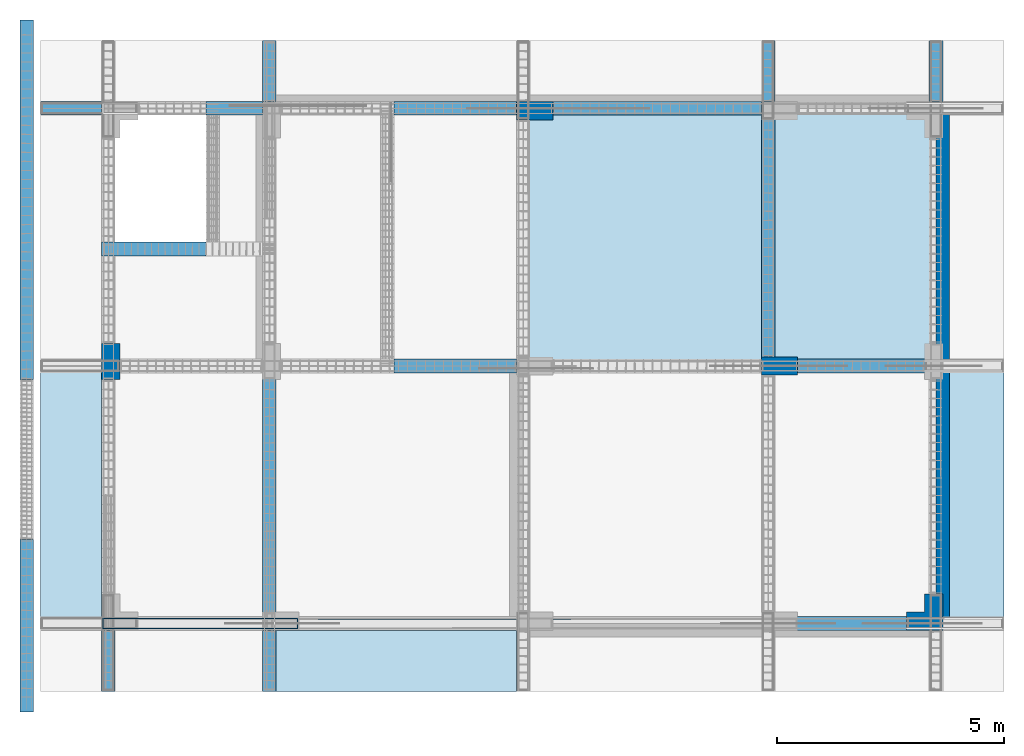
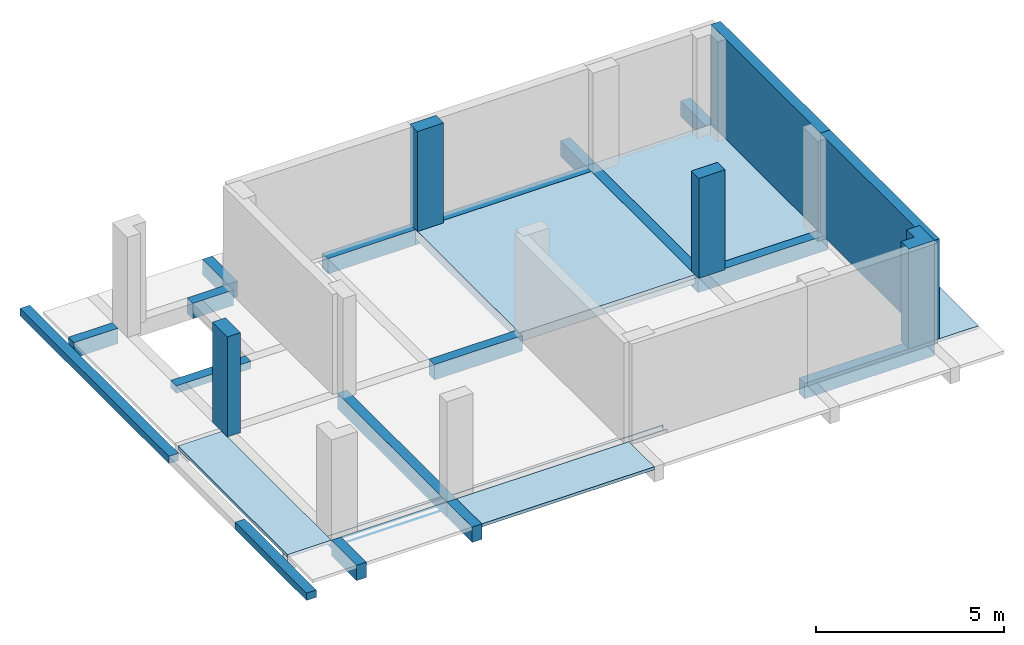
# One storey, part 1 of 3: 17 beams, 5 slabs, 4 columns, 2 reinforcing bars, 2 walls.
"""IFC4 building model written with IfcOpenShell, lengths in metres."""

from ifc_helpers import new_model, entity, si_unit, frame, frame_2d, origin_with_axes, origin_2d_with_axis, place, context, project, spatial, polyline, rectangle, outline, extrude, source, transform, mapped, material, material_profile, profile_set, profile_usage, type_object, element, save


model = new_model("IFC4")

# Units and contexts
model_context = context("Model", 3, precision=1e-05, world=origin_with_axes())
ifc_project = project(units=[si_unit("LENGTHUNIT", "METRE"), si_unit("AREAUNIT", "SQUARE_METRE"), si_unit("VOLUMEUNIT", "CUBIC_METRE"), si_unit("MASSUNIT", "GRAM", prefix="KILO"), si_unit("TIMEUNIT", "SECOND"), si_unit("PLANEANGLEUNIT", "RADIAN"), si_unit("SOLIDANGLEUNIT", "STERADIAN"), si_unit("THERMODYNAMICTEMPERATUREUNIT", "DEGREE_CELSIUS")], contexts=[model_context])

# Site, building, storey
placement_1 = place(None, origin_with_axes())
site = spatial("IfcSite", under=ifc_project, at=placement_1, Name="Italia", CompositionType="ELEMENT")
building = spatial("IfcBuilding", under=site, at=placement_1, Name="Palazzina", CompositionType="ELEMENT")
storey_placement = place(None, frame((0.0, 0.0, 3.75), z_axis=(0.0, 0.0, 1.0), x_axis=(1.0, 0.0, 0.0)))
storey = spatial("IfcBuildingStorey", under=building, at=storey_placement, Name="Storey 1", CompositionType="ELEMENT", Elevation=3.75)

# Columns
ifc_material_1 = material(Name="Calcestruzzo classe C28/35", Category="Calcestruzzo classe C28/35")
ifc_material_profile = material_profile(ifc_material_1, rectangle(XDim=0.4, YDim=0.8, at=origin_2d_with_axis()), Name="2 R 40x80 P")
ifc_profile_set = profile_set([ifc_material_profile])
ifc_profile_usage_1 = profile_usage(ifc_profile_set, cardinal=2)
column_type_1 = type_object("IfcColumnType", Name="2 R 40x80 P", PredefinedType="COLUMN", material=ifc_profile_usage_1)
placement_2 = place(placement_1, origin_with_axes())
column_1_placement = place(placement_2, origin_with_axes())
element("IfcColumn", 1, at=column_1_placement, inside=storey, type_object=column_type_1, Name="9", context=model_context, shape_type="SweptSolid", body=[
    extrude(rectangle(XDim=0.4, YDim=0.8, at=origin_2d_with_axis()), frame((14.95, 5.83, 3.75), z_axis=(0.0, 0.0, 1.0), x_axis=(0.0, 1.0, 0.0)), (0.0, 0.0, 1.0), 3.25),
])
ifc_profile_usage_2 = profile_usage(ifc_profile_set, cardinal=2)
column_type_2 = type_object("IfcColumnType", Name="1 R 80x40 P", PredefinedType="COLUMN", material=ifc_profile_usage_2)
column_2_placement = place(placement_2, origin_with_axes())
element("IfcColumn", 2, at=column_2_placement, inside=storey, type_object=column_type_2, Name="6", context=model_context, shape_type="SweptSolid", body=[
    extrude(rectangle(XDim=0.4, YDim=0.8, at=frame_2d((0.0, 0.0), x_axis=(0.0, 1.0))), frame((0.2, 5.93, 3.75), z_axis=(0.0, 0.0, 1.0), x_axis=(0.0, 1.0, 0.0)), (0.0, 0.0, 1.0), 3.25),
])
ifc_profile_usage_3 = profile_usage(ifc_profile_set, cardinal=3)
column_type_3 = type_object("IfcColumnType", Name="2 R 40x80 P", PredefinedType="COLUMN", material=ifc_profile_usage_3)
column_3_placement = place(placement_2, origin_with_axes())
element("IfcColumn", 3, at=column_3_placement, inside=storey, type_object=column_type_3, Name="13", context=model_context, shape_type="SweptSolid", body=[
    extrude(rectangle(XDim=0.4, YDim=0.8, at=origin_2d_with_axis()), frame((9.55, 11.46, 3.75), z_axis=(0.0, 0.0, 1.0), x_axis=(0.0, 1.0, 0.0)), (0.0, 0.0, 1.0), 3.25),
])
ifc_profile_usage_4 = profile_usage(ifc_profile_set, cardinal=7)
column_type_4 = type_object("IfcColumnType", Name="4 L 40x40x80x40 P", PredefinedType="COLUMN", material=ifc_profile_usage_4)
column_4_placement = place(placement_2, origin_with_axes())
element("IfcColumn", 4, at=column_4_placement, inside=storey, type_object=column_type_4, Name="5", context=model_context, shape_type="SweptSolid", body=[
    extrude(outline(polyline([(-0.4, 0.4), (0.0, 0.4), (0.0, 0.0), (0.4, 0.0), (0.4, -0.4), (-0.4, -0.4), (-0.4, 0.4)])), frame((18.15, 0.4, 3.75), z_axis=(0.0, 0.0, 1.0), x_axis=(0.0, 1.0, 0.0)), (0.0, 0.0, 1.0), 3.25),
])

# Beams
ifc_profile_usage_5 = profile_usage(ifc_profile_set, cardinal=3)
beam_type_1 = type_object("IfcBeamType", Name="3 R 30x50 T", PredefinedType="BEAM", material=ifc_profile_usage_5)
beam_1_placement = place(placement_2, origin_with_axes())
element("IfcBeam", 5, at=beam_1_placement, inside=storey, type_object=beam_type_1, Name="111", context=model_context, shape_type="SweptSolid", body=[
    extrude(rectangle(XDim=0.3, YDim=0.5, at=origin_2d_with_axis()), frame((3.7, 0.0, 3.5), z_axis=(0.0, 1.0, 0.0), x_axis=(-1.0, 0.0, 0.0)), (0.0, 0.0, 1.0), 5.83),
])
ifc_profile_usage_6 = profile_usage(ifc_profile_set, cardinal=2)
beam_type_2 = type_object("IfcBeamType", Name="3 R 30x50 T", PredefinedType="BEAM", material=ifc_profile_usage_6)
beam_2_placement = place(placement_2, origin_with_axes())
element("IfcBeam", 6, at=beam_2_placement, inside=storey, type_object=beam_type_2, Name="104", context=model_context, shape_type="SweptSolid", body=[
    extrude(rectangle(XDim=0.3, YDim=0.5, at=origin_2d_with_axis()), frame((6.45, 5.83, 3.5), z_axis=(1.0, 0.0, 0.0), x_axis=(0.0, 1.0, 0.0)), (0.0, 0.0, 1.0), 2.7),
])
ifc_profile_usage_7 = profile_usage(ifc_profile_set, cardinal=2)
beam_type_3 = type_object("IfcBeamType", Name="3 R 30x50 T", PredefinedType="BEAM", material=ifc_profile_usage_7)
beam_3_placement = place(placement_2, origin_with_axes())
element("IfcBeam", 7, at=beam_3_placement, inside=storey, type_object=beam_type_3, Name="104", context=model_context, shape_type="SweptSolid", body=[
    extrude(rectangle(XDim=0.3, YDim=0.5, at=origin_2d_with_axis()), frame((14.55, 5.83, 3.5), z_axis=(1.0, 0.0, 0.0), x_axis=(0.0, 1.0, 0.0)), (0.0, 0.0, 1.0), 4.0),
])
ifc_profile_usage_8 = profile_usage(ifc_profile_set, cardinal=3)
beam_type_4 = type_object("IfcBeamType", Name="3 R 30x50 T", PredefinedType="BEAM", material=ifc_profile_usage_8)
beam_4_placement = place(placement_2, origin_with_axes())
element("IfcBeam", 8, at=beam_4_placement, inside=storey, type_object=beam_type_4, Name="114", context=model_context, shape_type="SweptSolid", body=[
    extrude(rectangle(XDim=0.3, YDim=0.5, at=origin_2d_with_axis()), frame((14.7, 5.83, 3.5), z_axis=(0.0, 1.0, 0.0), x_axis=(-1.0, 0.0, 0.0)), (0.0, 0.0, 1.0), 5.83),
])
ifc_profile_usage_9 = profile_usage(ifc_profile_set, cardinal=3)
beam_type_5 = type_object("IfcBeamType", Name="6 R 30x24 T", PredefinedType="BEAM", material=ifc_profile_usage_9)
beam_5_placement = place(placement_2, origin_with_axes())
element("IfcBeam", 9, at=beam_5_placement, inside=storey, type_object=beam_type_5, Name="105", context=model_context, shape_type="SweptSolid", body=[
    extrude(rectangle(XDim=0.24, YDim=0.3, at=frame_2d((0.0, 0.0), x_axis=(0.0, 1.0))), frame((0.0, 8.41, 3.63), z_axis=(1.0, 0.0, 0.0), x_axis=(0.0, 1.0, 0.0)), (0.0, 0.0, 1.0), 2.3),
])
ifc_profile_usage_10 = profile_usage(ifc_profile_set, cardinal=3)
beam_type_6 = type_object("IfcBeamType", Name="3 R 30x50 T", PredefinedType="BEAM", material=ifc_profile_usage_10)
beam_6_placement = place(placement_2, origin_with_axes())
element("IfcBeam", 10, at=beam_6_placement, inside=storey, type_object=beam_type_6, Name="115", context=model_context, shape_type="SweptSolid", body=[
    extrude(rectangle(XDim=0.3, YDim=0.5, at=origin_2d_with_axis()), frame((18.4, 13.01, 3.5), z_axis=(0.0, -1.0, 0.0), x_axis=(1.0, 0.0, 0.0)), (0.0, 0.0, 1.0), 1.35),
])
ifc_profile_usage_11 = profile_usage(ifc_profile_set, cardinal=3)
beam_type_7 = type_object("IfcBeamType", Name="3 R 30x50 T", PredefinedType="BEAM", material=ifc_profile_usage_11)
beam_7_placement = place(placement_2, origin_with_axes())
element("IfcBeam", 11, at=beam_7_placement, inside=storey, type_object=beam_type_7, Name="106", context=model_context, shape_type="SweptSolid", body=[
    extrude(rectangle(XDim=0.3, YDim=0.5, at=origin_2d_with_axis()), frame((-1.35, 11.51, 3.5), z_axis=(1.0, 0.0, 0.0), x_axis=(0.0, 1.0, 0.0)), (0.0, 0.0, 1.0), 1.35),
])
ifc_profile_usage_12 = profile_usage(ifc_profile_set, cardinal=1)
beam_type_8 = type_object("IfcBeamType", Name="9 R 30x24 T", PredefinedType="BEAM", material=ifc_profile_usage_12)
beam_8_placement = place(placement_2, origin_with_axes())
element("IfcBeam", 12, at=beam_8_placement, inside=storey, type_object=beam_type_8, Name="108", context=model_context, shape_type="SweptSolid", body=[
    extrude(rectangle(XDim=0.24, YDim=0.3, at=frame_2d((0.0, 0.0), x_axis=(0.0, 1.0))), frame((-1.65, 2.0, 3.63), z_axis=(0.0, -1.0, 0.0), x_axis=(1.0, 0.0, 0.0)), (0.0, 0.0, 1.0), 3.8),
])
ifc_profile_usage_13 = profile_usage(ifc_profile_set, cardinal=3)
beam_type_9 = type_object("IfcBeamType", Name="3 R 30x50 T", PredefinedType="BEAM", material=ifc_profile_usage_13)
beam_9_placement = place(placement_2, origin_with_axes())
element("IfcBeam", 13, at=beam_9_placement, inside=storey, type_object=beam_type_9, Name="102", context=model_context, shape_type="SweptSolid", body=[
    extrude(rectangle(XDim=0.3, YDim=0.5, at=origin_2d_with_axis()), frame((18.55, 0.15, 3.5), z_axis=(-1.0, 0.0, 0.0), x_axis=(0.0, -1.0, 0.0)), (0.0, 0.0, 1.0), 4.0),
])
ifc_profile_usage_14 = profile_usage(ifc_profile_set, cardinal=3)
beam_type_10 = type_object("IfcBeamType", Name="3 R 30x50 T", PredefinedType="BEAM", material=ifc_profile_usage_14)
beam_10_placement = place(placement_2, origin_with_axes())
element("IfcBeam", 14, at=beam_10_placement, inside=storey, type_object=beam_type_10, Name="111", context=model_context, shape_type="SweptSolid", body=[
    extrude(rectangle(XDim=0.3, YDim=0.5, at=origin_2d_with_axis()), frame((3.7, -1.35, 3.5), z_axis=(0.0, 1.0, 0.0), x_axis=(-1.0, 0.0, 0.0)), (0.0, 0.0, 1.0), 1.35),
])
ifc_profile_usage_15 = profile_usage(ifc_profile_set, cardinal=3)
beam_type_11 = type_object("IfcBeamType", Name="3 R 30x50 T", PredefinedType="BEAM", material=ifc_profile_usage_15)
beam_11_placement = place(placement_2, origin_with_axes())
element("IfcBeam", 15, at=beam_11_placement, inside=storey, type_object=beam_type_11, Name="109", context=model_context, shape_type="SweptSolid", body=[
    extrude(rectangle(XDim=0.3, YDim=0.5, at=origin_2d_with_axis()), frame((0.15, -1.35, 3.5), z_axis=(0.0, 1.0, 0.0), x_axis=(-1.0, 0.0, 0.0)), (0.0, 0.0, 1.0), 1.35),
])
ifc_profile_usage_16 = profile_usage(ifc_profile_set, cardinal=3)
beam_type_12 = type_object("IfcBeamType", Name="3 R 30x50 T", PredefinedType="BEAM", material=ifc_profile_usage_16)
beam_12_placement = place(placement_2, origin_with_axes())
element("IfcBeam", 16, at=beam_12_placement, inside=storey, type_object=beam_type_12, Name="114", context=model_context, shape_type="SweptSolid", body=[
    extrude(rectangle(XDim=0.3, YDim=0.5, at=origin_2d_with_axis()), frame((14.7, 11.66, 3.5), z_axis=(0.0, 1.0, 0.0), x_axis=(-1.0, 0.0, 0.0)), (0.0, 0.0, 1.0), 1.35),
])
ifc_profile_usage_17 = profile_usage(ifc_profile_set, cardinal=3)
beam_type_13 = type_object("IfcBeamType", Name="3 R 30x50 T", PredefinedType="BEAM", material=ifc_profile_usage_17)
beam_13_placement = place(placement_2, origin_with_axes())
element("IfcBeam", 17, at=beam_13_placement, inside=storey, type_object=beam_type_13, Name="111", context=model_context, shape_type="SweptSolid", body=[
    extrude(rectangle(XDim=0.3, YDim=0.5, at=origin_2d_with_axis()), frame((3.7, 11.66, 3.5), z_axis=(0.0, 1.0, 0.0), x_axis=(-1.0, 0.0, 0.0)), (0.0, 0.0, 1.0), 1.35),
])
ifc_profile_usage_18 = profile_usage(ifc_profile_set, cardinal=3)
beam_type_14 = type_object("IfcBeamType", Name="3 R 30x50 T", PredefinedType="BEAM", material=ifc_profile_usage_18)
beam_14_placement = place(placement_2, origin_with_axes())
element("IfcBeam", 18, at=beam_14_placement, inside=storey, type_object=beam_type_14, Name="106", context=model_context, shape_type="SweptSolid", body=[
    extrude(rectangle(XDim=0.3, YDim=0.5, at=origin_2d_with_axis()), frame((9.15, 11.51, 3.5), z_axis=(1.0, 0.0, 0.0), x_axis=(0.0, 1.0, 0.0)), (0.0, 0.0, 1.0), 5.4),
])
ifc_profile_usage_19 = profile_usage(ifc_profile_set, cardinal=1)
beam_type_15 = type_object("IfcBeamType", Name="9 R 30x24 T", PredefinedType="BEAM", material=ifc_profile_usage_19)
beam_15_placement = place(placement_2, origin_with_axes())
element("IfcBeam", 19, at=beam_15_placement, inside=storey, type_object=beam_type_15, Name="108", context=model_context, shape_type="SweptSolid", body=[
    extrude(rectangle(XDim=0.24, YDim=0.3, at=frame_2d((0.0, 0.0), x_axis=(0.0, 1.0))), frame((-1.65, 13.46, 3.63), z_axis=(0.0, -1.0, 0.0), x_axis=(1.0, 0.0, 0.0)), (0.0, 0.0, 1.0), 7.93),
])
ifc_profile_usage_20 = profile_usage(ifc_profile_set, cardinal=3)
beam_type_16 = type_object("IfcBeamType", Name="3 R 30x50 T", PredefinedType="BEAM", material=ifc_profile_usage_20)
beam_16_placement = place(placement_2, origin_with_axes())
element("IfcBeam", 20, at=beam_16_placement, inside=storey, type_object=beam_type_16, Name="106", context=model_context, shape_type="SweptSolid", body=[
    extrude(rectangle(XDim=0.3, YDim=0.5, at=origin_2d_with_axis()), frame((2.3, 11.51, 3.5), z_axis=(1.0, 0.0, 0.0), x_axis=(0.0, 1.0, 0.0)), (0.0, 0.0, 1.0), 1.25),
])
ifc_profile_usage_21 = profile_usage(ifc_profile_set, cardinal=3)
beam_type_17 = type_object("IfcBeamType", Name="3 R 30x50 T", PredefinedType="BEAM", material=ifc_profile_usage_21)
beam_17_placement = place(placement_2, origin_with_axes())
element("IfcBeam", 21, at=beam_17_placement, inside=storey, type_object=beam_type_17, Name="106", context=model_context, shape_type="SweptSolid", body=[
    extrude(rectangle(XDim=0.3, YDim=0.5, at=origin_2d_with_axis()), frame((6.45, 11.51, 3.5), z_axis=(1.0, 0.0, 0.0), x_axis=(0.0, 1.0, 0.0)), (0.0, 0.0, 1.0), 2.7),
])

# Slabs
ifc_material_2 = material(Name="Concrete", Category="Concrete")
slab_type_1 = type_object("IfcSlabType", Name="1 Hs 0.3 Sc 0.04 Qps 390 Qpn 250 QA 200", PredefinedType="FLOOR", material=ifc_material_2)
slab_1_placement = place(placement_2, origin_with_axes())
element("IfcSlab", 22, at=slab_1_placement, inside=storey, type_object=slab_type_1, Name="101", context=model_context, shape_type="SweptSolid", body=[
    extrude(outline(polyline([(0.0, 0.0), (0.0, 4.0), (5.83, 4.0), (5.83, 0.0), (0.0, 0.0)])), frame((14.55, 5.83, 3.75), z_axis=(0.0, 0.0, -1.0), x_axis=(0.0, 1.0, 0.0)), (0.0, 0.0, 1.0), 0.3),
])
ifc_material_3 = material(Name="Concrete", Category="Concrete")
slab_type_2 = type_object("IfcSlabType", Name="1 Hs 0.3 Sc 0.04 Qps 390 Qpn 250 QA 200", PredefinedType="FLOOR", material=ifc_material_3)
slab_2_placement = place(placement_2, origin_with_axes())
element("IfcSlab", 23, at=slab_2_placement, inside=storey, type_object=slab_type_2, Name="110", context=model_context, shape_type="SweptSolid", body=[
    extrude(outline(polyline([(0.0, 0.0), (0.0, 5.4), (5.83, 5.4), (5.83, 0.0), (0.0, 0.0)])), frame((9.15, 5.83, 3.75), z_axis=(0.0, 0.0, -1.0), x_axis=(0.0, 1.0, 0.0)), (0.0, 0.0, 1.0), 0.3),
])
ifc_material_4 = material(Name="Concrete", Category="Concrete")
slab_type_3 = type_object("IfcSlabType", Name="3 Hs 0.1 Qps 250 Qpn 100 QA 200", PredefinedType="FLOOR", material=ifc_material_4)
slab_3_placement = place(placement_2, origin_with_axes())
element("IfcSlab", 24, at=slab_3_placement, inside=storey, type_object=slab_type_3, Name="116", context=model_context, shape_type="SweptSolid", body=[
    extrude(outline(polyline([(0.0, 0.0), (0.0, 1.35), (-5.83, 1.35), (-5.83, 0.0), (0.0, 0.0)])), frame((18.55, 5.83, 3.75), z_axis=(0.0, 0.0, -1.0), x_axis=(0.0, 1.0, 0.0)), (0.0, 0.0, 1.0), 0.0999999),
])
ifc_material_5 = material(Name="Concrete", Category="Concrete")
slab_type_4 = type_object("IfcSlabType", Name="3 Hs 0.1 Qps 250 Qpn 100 QA 200", PredefinedType="FLOOR", material=ifc_material_5)
slab_4_placement = place(placement_2, origin_with_axes())
element("IfcSlab", 25, at=slab_4_placement, inside=storey, type_object=slab_type_4, Name="120", context=model_context, shape_type="SweptSolid", body=[
    extrude(outline(polyline([(0.0, 0.0), (0.0, 5.6), (1.35, 5.6), (1.35, 0.0), (0.0, 0.0)])), frame((3.55, -1.35, 3.75), z_axis=(0.0, 0.0, -1.0), x_axis=(0.0, 1.0, 0.0)), (0.0, 0.0, 1.0), 0.0999999),
])
ifc_material_6 = material(Name="Concrete", Category="Concrete")
slab_type_5 = type_object("IfcSlabType", Name="3 Hs 0.1 Qps 250 Qpn 100 QA 200", PredefinedType="FLOOR", material=ifc_material_6)
slab_5_placement = place(placement_2, origin_with_axes())
element("IfcSlab", 26, at=slab_5_placement, inside=storey, type_object=slab_type_5, Name="123", context=model_context, shape_type="SweptSolid", body=[
    extrude(outline(polyline([(0.0, 0.0), (0.0, 1.35), (-5.83, 1.35), (-5.83, 0.0), (0.0, 0.0)])), frame((-1.35, 5.83, 3.75), z_axis=(0.0, 0.0, -1.0), x_axis=(0.0, 1.0, 0.0)), (0.0, 0.0, 1.0), 0.0999999),
])

# Walls
ifc_material_7 = material()
wall_1_placement = place(placement_2, origin_with_axes())
element("IfcWall", 27, at=wall_1_placement, inside=storey, material=ifc_material_7, Name="112", context=model_context, shape_type="SweptSolid", body=[
    extrude(outline(polyline([(0.0, 0.0), (0.0, 3.25), (-2.0, 3.25), (-4.25, 3.25), (-4.645, 3.25), (-5.04, 3.25), (-5.435, 3.25), (-5.83, 3.25), (-5.83, 0.0), (0.0, 0.0)])), frame((18.7, 0.0, 3.75), z_axis=(-1.0, 0.0, 0.0), x_axis=(0.0, -1.0, 0.0)), (0.0, 0.0, 1.0), 0.299999),
])
ifc_material_8 = material()
wall_2_placement = place(placement_2, origin_with_axes())
element("IfcWall", 28, at=wall_2_placement, inside=storey, material=ifc_material_8, Name="113", context=model_context, shape_type="SweptSolid", body=[
    extrude(outline(polyline([(0.0, 0.0), (0.0, -3.25), (5.83, -3.25), (5.83, 0.0), (5.35667, 0.0), (4.88333, 0.0), (4.41, 0.0), (0.0, 0.0)])), frame((18.7, 11.66, 7.0), z_axis=(-1.0, 0.0, 0.0), x_axis=(0.0, -1.0, 0.0)), (0.0, 0.0, 1.0), 0.299999),
])

# Reinforcing bars
shared_shape_1 = source(origin_with_axes(), model_context, "Body", "AdvancedSweptSolid", [
    entity("IfcSweptDiskSolid", entity("IfcIndexedPolyCurve", entity("IfcCartesianPointList3D", [[-1.32, 0.042, 3.51], [-1.32, 0.042, 3.7], [-1.31924, 0.042, 3.70383], [-1.31707, 0.042, 3.70707], [-1.31383, 0.042, 3.70924], [-1.31, 0.042, 3.71], [9.25691, 0.042, 3.71], [10.33, 0.042, 3.71], [10.3338, 0.042, 3.70924], [10.3371, 0.042, 3.70707], [10.3392, 0.042, 3.70383], [10.34, 0.042, 3.7], [10.34, 0.042, 3.61]]), [entity("IfcLineIndex", [1, 2]), entity("IfcLineIndex", [2, 3]), entity("IfcLineIndex", [3, 4]), entity("IfcLineIndex", [4, 5]), entity("IfcLineIndex", [5, 6]), entity("IfcLineIndex", [6, 7]), entity("IfcLineIndex", [7, 8]), entity("IfcLineIndex", [8, 9]), entity("IfcLineIndex", [9, 10]), entity("IfcLineIndex", [10, 11]), entity("IfcLineIndex", [11, 12]), entity("IfcLineIndex", [12, 13])], False), 0.009),
])
reinforcing_bar_1_placement = place(placement_2, origin_with_axes())
element("IfcReinforcingBar", 29, at=reinforcing_bar_1_placement, inside=storey, BarLength=11.9512, CrossSectionArea=0.00025447, NominalDiameter=0.018, context=model_context, shape_type="MappedRepresentation", body=[
    mapped(shared_shape_1, transform((0.0, 0.216, 0.0), x_axis=(1.0, 0.0, 0.0), y_axis=(0.0, 1.0, 0.0), z_axis=(0.0, 0.0, 1.0), scale=1.0)),
    mapped(shared_shape_1, transform((0.0, 0.0, 0.0), x_axis=(1.0, 0.0, 0.0), y_axis=(0.0, 1.0, 0.0), z_axis=(0.0, 0.0, 1.0), scale=1.0)),
])
shared_shape_2 = source(origin_with_axes(), model_context, "Body", "AdvancedSweptSolid", [
    entity("IfcSweptDiskSolid", entity("IfcIndexedPolyCurve", entity("IfcCartesianPointList3D", [[0.0299997, 0.041, 3.506], [0.0299997, 0.251, 3.506], [0.0307609, 0.254827, 3.506], [0.0329287, 0.258071, 3.506], [0.0361729, 0.260239, 3.506], [0.0399997, 0.261, 3.506], [4.31, 0.261, 3.506], [4.31383, 0.260239, 3.506], [4.31707, 0.258071, 3.506], [4.31924, 0.254827, 3.506], [4.32, 0.251, 3.506], [4.32, 0.041, 3.506]]), [entity("IfcLineIndex", [1, 2]), entity("IfcLineIndex", [2, 3]), entity("IfcLineIndex", [3, 4]), entity("IfcLineIndex", [4, 5]), entity("IfcLineIndex", [5, 6]), entity("IfcLineIndex", [6, 7]), entity("IfcLineIndex", [7, 8]), entity("IfcLineIndex", [8, 9]), entity("IfcLineIndex", [9, 10]), entity("IfcLineIndex", [10, 11]), entity("IfcLineIndex", [11, 12])], False), 0.006),
])
reinforcing_bar_2_placement = place(placement_2, origin_with_axes())
element("IfcReinforcingBar", 30, at=reinforcing_bar_2_placement, inside=storey, BarLength=4.72121, CrossSectionArea=0.0001131, NominalDiameter=0.012, context=model_context, shape_type="MappedRepresentation", body=[
    mapped(shared_shape_2, transform((0.0, 0.3, 7.0), x_axis=(1.0, 0.0, 0.0), y_axis=(0.0, -1.0, 0.0), z_axis=(0.0, 0.0, -1.0), scale=1.0)),
    mapped(shared_shape_2, transform((0.0, 0.0, 0.0), x_axis=(1.0, 0.0, 0.0), y_axis=(0.0, 1.0, 0.0), z_axis=(0.0, 0.0, 1.0), scale=1.0)),
])

save(model, "model.ifc")
